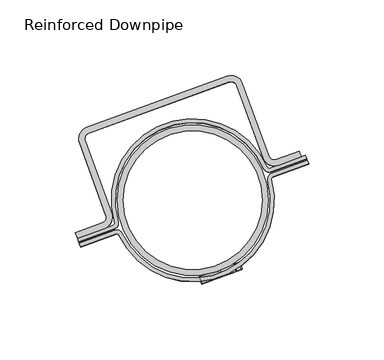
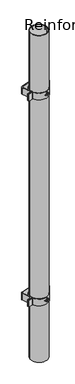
"""IFC4 building model written with IfcOpenShell, lengths in millimetres: proxy geometry, GROVIK_Special_Reinforced Downpipe : Reinforced Downpipe."""

from ifc_helpers import new_model, si_unit, point, frame, frame_2d, origin, origin_with_axes, origin_2d, place, context, project, spatial, polyline, circle_curve, ellipse_curve, trimmed, segment, composite_curve, outline, extrude, source, transform, mapped, element, save
from ifc_brep_helpers import plane_surface, cylinder_surface, revolved_surface, extruded_surface, advanced_brep


def reinforced_downpipe_ffb57d06(model_context):
    return source(origin(), model_context, "Body", "SolidModel", [
        advanced_brep(
        [(24.0556457, 78.3527616, 390.0), (29.1831627, 75.962314, 390.0), (46.6261898, 28.037991, 390.0), (56.8815635, 23.2572211, 390.0), (71.8928863, 28.7208958, 390.0), (70.5248064, 32.4796643, 390.0), (55.5107915, 27.0150098, 390.0), (50.3839465, 29.4057019, 390.0), (32.9409191, 77.3300255, 390.0), (22.6872291, 82.1114098, 390.0), (-70.2123755, 48.2987189, 390.0), (-74.9937432, 38.0450212, 390.0), (-57.5507159, -9.8793025, 390.0), (-59.9413998, -15.0061513, 390.0), (-77.6649001, -21.4569779, 390.0), (-76.2968202, -25.2157464, 390.0), (-58.57332, -18.7649198, 390.0), (-53.7919517, -8.5112235, 390.0), (-71.2349788, 39.4130995, 390.0), (-68.8442949, 44.5399484, 390.0), (24.0556457, 78.3527616, 350.0), (-68.8442949, 44.5399484, 350.0), (-71.2349788, 39.4130995, 350.0), (-53.7919517, -8.5112235, 350.0), (-58.57332, -18.7649198, 350.0), (-76.2968202, -25.2157464, 350.0), (-77.6649001, -21.4569779, 350.0), (-59.9413998, -15.0061513, 350.0), (-57.5507159, -9.8793025, 350.0), (-74.9937432, 38.0450212, 350.0), (-70.2123755, 48.2987189, 350.0), (22.6872291, 82.1114098, 350.0), (32.9409191, 77.3300255, 350.0), (50.3839465, 29.4057019, 350.0), (55.5107915, 27.0150098, 350.0), (70.5248064, 32.4796643, 350.0), (71.8928863, 28.7208958, 350.0), (56.8815635, 23.2572211, 350.0), (46.6261898, 28.037991, 350.0), (29.1831627, 75.962314, 350.0)],
        [
            (0, 1, ellipse_curve(frame((25.4237263, 74.5939911, 390.0), z_axis=(0.0, 0.0, -1.0000000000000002), x_axis=(0.9396926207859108, 0.34202014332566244, 0.0)), 4.0007087, 4.0)),
            (1, 2),
            (2, 3, ellipse_curve(frame((54.1454028, 30.7747608, 390.0), z_axis=(0.0, 0.0, 1.0000000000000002), x_axis=(0.9396926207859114, 0.34202014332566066, 0.0)), 8.0017793, 7.9999986)),
            (3, 4),
            (4, 5),
            (5, 6),
            (6, 7, ellipse_curve(frame((54.1427109, 30.7737802, 390.0), z_axis=(0.0, 0.0, -1.0000000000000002), x_axis=(0.34202014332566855, -0.9396926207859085, 0.0)), 4.0, 3.9999936)),
            (7, 8),
            (8, 9, ellipse_curve(frame((25.4233903, 74.5938688, 390.0), z_axis=(0.0, 0.0, 1.0), x_axis=(-0.3420201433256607, 0.9396926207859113, 0.0)), 8.0, 7.9999871)),
            (9, 10),
            (10, 11, ellipse_curve(frame((-67.4762144, 40.7811779, 390.0), z_axis=(0.0, 0.0, 1.0), x_axis=(-0.3420201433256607, 0.9396926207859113, 0.0)), 8.0, 7.9999871)),
            (11, 12),
            (12, 13, ellipse_curve(frame((-61.3094804, -11.2473809, 390.0), z_axis=(0.0, 0.0, -1.0), x_axis=(0.34202014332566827, -0.9396926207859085, 0.0)), 4.0, 3.9999936)),
            (13, 14),
            (14, 15),
            (15, 16),
            (16, 17, ellipse_curve(frame((-61.3094806, -11.2473802, 390.0), z_axis=(0.0, 0.0, 1.0), x_axis=(-0.3420201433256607, 0.9396926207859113, 0.0)), 7.9999986, 7.9999871)),
            (17, 18),
            (18, 19, ellipse_curve(frame((-67.4762144, 40.7811779, 390.0), z_axis=(0.0, 0.0, -1.0000000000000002), x_axis=(-0.3420201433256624, 0.9396926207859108, 0.0)), 4.0, 3.9999936)),
            (19, 0),
            (20, 21),
            (21, 22, ellipse_curve(frame((-67.4762144, 40.7811779, 350.0), z_axis=(0.0, 0.0, 1.0000000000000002), x_axis=(-0.3420201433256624, 0.9396926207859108, 0.0)), 4.0, 3.9999936)),
            (22, 23),
            (23, 24, ellipse_curve(frame((-61.3094806, -11.2473802, 350.0), z_axis=(0.0, 0.0, -1.0), x_axis=(-0.3420201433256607, 0.9396926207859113, 0.0)), 7.9999986, 7.9999871)),
            (24, 25),
            (25, 26),
            (26, 27),
            (27, 28, ellipse_curve(frame((-61.3094804, -11.2473809, 350.0), z_axis=(0.0, 0.0, 1.0), x_axis=(0.9396926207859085, 0.34202014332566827, 0.0)), 3.9999936, 4.0)),
            (28, 29),
            (29, 30, ellipse_curve(frame((-67.4762144, 40.7811779, 350.0), z_axis=(0.0, 0.0, -1.0), x_axis=(-0.3420201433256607, 0.9396926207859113, 0.0)), 8.0, 7.9999871)),
            (30, 31),
            (31, 32, ellipse_curve(frame((25.4233903, 74.5938688, 350.0), z_axis=(0.0, 0.0, -1.0), x_axis=(-0.3420201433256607, 0.9396926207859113, 0.0)), 8.0, 7.9999871)),
            (32, 33),
            (33, 34, ellipse_curve(frame((54.1427109, 30.7737802, 350.0), z_axis=(0.0, 0.0, 1.0000000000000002), x_axis=(0.34202014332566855, -0.9396926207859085, 0.0)), 4.0, 3.9999936)),
            (34, 35),
            (35, 36),
            (36, 37),
            (37, 38, ellipse_curve(frame((54.1454028, 30.7747608, 350.0), z_axis=(0.0, 0.0, -1.0000000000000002), x_axis=(0.34202014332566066, -0.9396926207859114, 0.0)), 7.9999986, 8.0017793)),
            (38, 39),
            (39, 20, ellipse_curve(frame((25.4237263, 74.5939911, 350.0), z_axis=(0.0, 0.0, 1.0000000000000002), x_axis=(0.9396926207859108, 0.34202014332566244, 0.0)), 4.0007087, 4.0)),
            (0, 20),
            (39, 1),
            (38, 2),
            (37, 3),
            (36, 4),
            (35, 5),
            (34, 6),
            (33, 7),
            (32, 8),
            (31, 9),
            (30, 10),
            (29, 11),
            (28, 12),
            (27, 13),
            (26, 14),
            (25, 15),
            (24, 16),
            (23, 17),
            (22, 18),
            (21, 19),
        ],
        [
            plane_surface(frame((29.1831627, 75.962314, 390.0), z_axis=(0.0, 0.0, 1.0000000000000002), x_axis=(0.34202014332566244, -0.9396926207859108, 0.0))),
            plane_surface(frame((29.1831627, 75.962314, 350.0), z_axis=(0.0, 0.0, -1.0000000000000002), x_axis=(-0.34202014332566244, 0.9396926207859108, 0.0))),
            extruded_surface(trimmed(ellipse_curve(frame((25.4237263, 74.5939911, 310.0), z_axis=(0.0, 0.0, -1.0000000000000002), x_axis=(0.9396926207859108, 0.34202014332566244, 0.0)), 4.0007087, 4.0), [point((24.0556457, 78.3527616, 310.0))], [point((29.1831627, 75.962314, 310.0))], True, "CARTESIAN"), (0.0, 0.0, 40.0), 40.0),
            plane_surface(frame((29.1831627, 75.962314, 390.0), z_axis=(-0.9396926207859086, -0.3420201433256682, 0.0), x_axis=(0.0, 0.0, -1.0))),
            extruded_surface(trimmed(ellipse_curve(frame((54.1454028, 30.7747608, 310.0), z_axis=(0.0, 0.0, 1.0000000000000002), x_axis=(0.34202014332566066, -0.9396926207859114, 0.0)), 7.9999986, 8.0017793), [point((46.6261898, 28.037991, 310.0))], [point((56.8815635, 23.2572211, 310.0))], True, "CARTESIAN"), (0.0, 0.0, 40.0), 40.0),
            plane_surface(frame((56.8815635, 23.2572211, 390.0), z_axis=(0.3420201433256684, -0.9396926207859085, 0.0), x_axis=(0.0, 0.0, -1.0))),
            plane_surface(frame((71.8928863, 28.7208958, 390.0), z_axis=(0.9396926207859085, 0.3420201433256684, 0.0), x_axis=(0.0, 0.0, -1.0))),
            plane_surface(frame((70.5248064, 32.4796643, 390.0), z_axis=(-0.3420201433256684, 0.9396926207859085, 0.0), x_axis=(0.0, 0.0, -1.0))),
            extruded_surface(trimmed(ellipse_curve(frame((54.1427109, 30.7737802, 310.0), z_axis=(0.0, 0.0, -1.0000000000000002), x_axis=(0.34202014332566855, -0.9396926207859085, 0.0)), 4.0, 3.9999936), [point((55.5107915, 27.0150098, 310.0))], [point((50.3839465, 29.4057019, 310.0))], True, "CARTESIAN"), (0.0, 0.0, 40.0), 40.0),
            plane_surface(frame((50.3839465, 29.4057019, 390.0), z_axis=(0.9396926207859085, 0.3420201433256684, 0.0), x_axis=(0.0, 0.0, -1.0))),
            extruded_surface(trimmed(ellipse_curve(frame((25.4233903, 74.5938688, 310.0), z_axis=(0.0, 0.0, 1.0), x_axis=(-0.3420201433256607, 0.9396926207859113, 0.0)), 8.0, 7.9999871), [point((32.9409191, 77.3300255, 310.0))], [point((22.6872291, 82.1114098, 310.0))], True, "CARTESIAN"), (0.0, 0.0, 40.0), 40.0),
            plane_surface(frame((22.6872291, 82.1114098, 390.0), z_axis=(-0.3420201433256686, 0.9396926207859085, 0.0), x_axis=(0.0, 0.0, -1.0))),
            extruded_surface(trimmed(ellipse_curve(frame((-67.4762144, 40.7811779, 310.0), z_axis=(0.0, 0.0, 1.0), x_axis=(-0.3420201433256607, 0.9396926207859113, 0.0)), 8.0, 7.9999871), [point((-70.2123755, 48.2987189, 310.0))], [point((-74.9937432, 38.0450212, 310.0))], True, "CARTESIAN"), (0.0, 0.0, 40.0), 40.0),
            plane_surface(frame((-74.9937432, 38.0450212, 390.0), z_axis=(-0.9396926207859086, -0.34202014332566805, 0.0), x_axis=(0.0, 0.0, -1.0))),
            extruded_surface(trimmed(ellipse_curve(frame((-61.3094804, -11.2473809, 310.0), z_axis=(0.0, 0.0, -1.0), x_axis=(0.9396926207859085, 0.34202014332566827, 0.0)), 3.9999936, 4.0), [point((-57.5507159, -9.8793025, 310.0))], [point((-59.9413998, -15.0061513, 310.0))], True, "CARTESIAN"), (0.0, 0.0, 40.0), 40.0),
            plane_surface(frame((-59.9413998, -15.0061513, 390.0), z_axis=(-0.3420201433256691, 0.9396926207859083, 0.0), x_axis=(0.0, 0.0, -1.0))),
            plane_surface(frame((-77.6649001, -21.4569779, 390.0), z_axis=(-0.9396926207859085, -0.3420201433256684, 0.0), x_axis=(0.0, 0.0, -1.0))),
            plane_surface(frame((-76.2968202, -25.2157464, 390.0), z_axis=(0.3420201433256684, -0.9396926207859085, 0.0), x_axis=(0.0, 0.0, -1.0))),
            extruded_surface(trimmed(ellipse_curve(frame((-61.3094806, -11.2473802, 310.0), z_axis=(0.0, 0.0, 1.0), x_axis=(-0.3420201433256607, 0.9396926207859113, 0.0)), 7.9999986, 7.9999871), [point((-58.57332, -18.7649198, 310.0))], [point((-53.7919517, -8.5112235, 310.0))], True, "CARTESIAN"), (0.0, 0.0, 40.0), 40.0),
            plane_surface(frame((-53.7919517, -8.5112235, 390.0), z_axis=(0.9396926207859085, 0.3420201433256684, 0.0), x_axis=(0.0, 0.0, -1.0))),
            extruded_surface(trimmed(ellipse_curve(frame((-67.4762144, 40.7811779, 310.0), z_axis=(0.0, 0.0, -1.0000000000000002), x_axis=(-0.3420201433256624, 0.9396926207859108, 0.0)), 4.0, 3.9999936), [point((-71.2349788, 39.4130995, 310.0))], [point((-68.8442949, 44.5399484, 310.0))], True, "CARTESIAN"), (0.0, 0.0, 40.0), 40.0),
            plane_surface(frame((-68.8442949, 44.5399484, 390.0), z_axis=(0.34202014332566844, -0.9396926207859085, 0.0), x_axis=(0.0, 0.0, -1.0))),
        ],
        [
            (0, [[1, 2, 3, 4, 5, 6, 7, 8, 9, 10, 11, 12, 13, 14, 15, 16, 17, 18, 19, 20]]),
            (1, [[21, 22, 23, 24, 25, 26, 27, 28, 29, 30, 31, 32, 33, 34, 35, 36, 37, 38, 39, 40]]),
            (2, [[-1, 41, -40, 42]]),
            (3, [[-2, -42, -39, 43]]),
            (4, [[-3, -43, -38, 44]]),
            (5, [[-4, -44, -37, 45]]),
            (6, [[-5, -45, -36, 46]]),
            (7, [[-6, -46, -35, 47]]),
            (8, [[-7, -47, -34, 48]]),
            (9, [[-8, -48, -33, 49]]),
            (10, [[-9, -49, -32, 50]]),
            (11, [[-10, -50, -31, 51]]),
            (12, [[-11, -51, -30, 52]]),
            (13, [[-12, -52, -29, 53]]),
            (14, [[-13, -53, -28, 54]]),
            (15, [[-14, -54, -27, 55]]),
            (16, [[-15, -55, -26, 56]]),
            (17, [[-16, -56, -25, 57]]),
            (18, [[-17, -57, -24, 58]]),
            (19, [[-18, -58, -23, 59]]),
            (20, [[-19, -59, -22, 60]]),
            (21, [[-20, -60, -21, -41]]),
        ],
    ),
        extrude(outline(composite_curve([segment(trimmed(circle_curve(origin_2d(), 53.9779115), [point((52.1634617, 13.877615))], [point((-48.8798889, -22.899157))], False, "CARTESIAN"), True, "CONTINUOUS"), segment(trimmed(circle_curve(frame_2d((-50.1476639, -23.4930818)), 1.4), [point((-48.8798889, -22.899157))], [point((-50.6264921, -22.1775121))], True, "CARTESIAN"), True, "CONTINUOUS"), segment(polyline([(-50.6264921, -22.1775121), (-74.2711495, -30.7834636), (-75.1040432, -28.4951069), (-51.6461822, -19.9571437)]), True, "CONTINUOUS"), segment(trimmed(circle_curve(frame_2d((-50.2438996, -23.8098835)), 4.1), [point((-51.6461822, -19.9571437))], [point((-46.5388638, -22.0541187))], False, "CARTESIAN"), True, "CONTINUOUS"), segment(trimmed(circle_curve(origin_2d(), 51.5), [point((-46.5388638, -22.0541187))], [point((49.8269523, 13.02017))], True, "CARTESIAN"), True, "CONTINUOUS"), segment(trimmed(circle_curve(frame_2d((53.7937582, 14.0567272)), 4.1), [point((49.8269523, 13.02017))], [point((52.3914756, 17.9094669))], False, "CARTESIAN"), True, "CONTINUOUS"), segment(polyline([(52.3914756, 17.9094669), (75.8493366, 26.4474301), (76.6822303, 24.1590734), (53.037573, 15.5531219)]), True, "CONTINUOUS"), segment(trimmed(circle_curve(frame_2d((53.5164012, 14.2375522)), 1.4), [point((53.037573, 15.5531219))], [point((52.1634617, 13.877615))], True, "CARTESIAN"), True, "CONTINUOUS")], self_intersect=False)), frame((0.0, 0.0, 350.0), z_axis=(0.0, 0.0, 1.0), x_axis=(1.0, 0.0, 0.0)), (0.0, 0.0, 1.0), 40.0),
        extrude(outline(composite_curve([segment(polyline([(-75.487286, -27.4421558), (-76.2975382, -25.2160062), (-52.5606511, -16.5764858)]), True, "CONTINUOUS"), segment(trimmed(circle_curve(frame_2d((-52.9710752, -15.4488547)), 1.2), [point((-52.5606511, -16.5764858))], [point((-51.8190691, -15.1128756))], True, "CARTESIAN"), True, "CONTINUOUS"), segment(trimmed(circle_curve(origin_2d(), 53.9779115), [point((-51.8190691, -15.1128756))], [point((49.4100791, 21.7315212))], False, "CARTESIAN"), True, "CONTINUOUS"), segment(trimmed(circle_curve(frame_2d((50.5085302, 22.2146415)), 1.2), [point((49.4100791, 21.7315212))], [point((50.9189544, 21.0870104))], True, "CARTESIAN"), True, "CONTINUOUS"), segment(polyline([(50.9189544, 21.0870104), (74.6558415, 29.7265308), (75.4660937, 27.5003812), (51.8295603, 18.8973866)]), True, "CONTINUOUS"), segment(trimmed(circle_curve(frame_2d((50.5298838, 22.4682185)), 3.8), [point((51.8295603, 18.8973866))], [point((47.0576676, 20.9242903))], False, "CARTESIAN"), True, "CONTINUOUS"), segment(trimmed(circle_curve(origin_2d(), 51.5), [point((47.0576676, 20.9242903))], [point((-49.4981393, -14.2191493))], True, "CARTESIAN"), True, "CONTINUOUS"), segment(trimmed(circle_curve(frame_2d((-53.1504292, -15.2683293)), 3.8), [point((-49.4981393, -14.2191493))], [point((-51.8507526, -18.8391612))], False, "CARTESIAN"), True, "CONTINUOUS"), segment(polyline([(-51.8507526, -18.8391612), (-75.487286, -27.4421558)]), True, "CONTINUOUS")], self_intersect=False)), frame((0.0, 0.0, 350.0), z_axis=(0.0, 0.0, 1.0), x_axis=(1.0, 0.0, 0.0)), (0.0, 0.0, 1.0), 40.0),
        advanced_brep(
        [(32.5639185, -45.5897966, 370.3702957), (32.2331264, -45.7101951, 371.2244821), (18.5682046, -50.6838199, 371.250567), (18.5152274, -50.703102, 369.0208304), (25.7326927, -48.0761595, 368.935265), (26.0590557, -47.957373, 368.0805643), (19.9582212, -50.1778952, 361.5391979), (18.8399651, -50.5849071, 361.3901524), (10.2970294, -53.6942815, 370.5140196), (10.2985417, -53.693731, 371.4111867), (18.8726939, -50.5729949, 380.5029242), (19.9562418, -50.1786157, 380.3129279), (25.1329715, -48.2944401, 374.8573801), (26.0625267, -47.9561097, 374.445555), (28.5856346, -47.0377736, 374.4407386), (28.9191706, -46.9163764, 375.2937991), (19.9973789, -50.163643, 384.894078), (18.4572234, -50.7242138, 384.5994837), (6.0312105, -55.2469126, 371.4233649), (6.0296883, -55.2474666, 370.5203393), (18.8326101, -50.5875842, 356.8468012), (19.9165889, -50.1930481, 357.0324447), (30.8538178, -40.8913335, 370.3702957), (18.2407655, -45.4821091, 356.9958467), (17.1225094, -45.8891211, 356.8468012), (4.3195876, -50.5490035, 370.5203393), (4.3211097, -50.5484495, 371.4233649), (16.7471226, -46.0257507, 384.5994837), (18.2530796, -45.4776271, 384.8573955), (27.2430486, -42.205546, 375.3293029), (26.8755339, -42.3393105, 374.4407386), (24.3524259, -43.2576466, 374.445555), (23.4228708, -43.595977, 374.8573801), (18.2803396, -45.4677053, 380.3496105), (17.1625932, -45.8745317, 380.5029242), (8.5884409, -48.9952679, 371.4111867), (8.5869287, -48.9958184, 370.5140196), (17.1298644, -45.886444, 361.3901524), (18.2138432, -45.491908, 361.5757959), (24.3828876, -43.2465595, 368.0442949), (24.0221865, -43.377844, 368.9345933), (16.8051267, -46.0046389, 369.0208304), (16.8581039, -45.9853568, 371.250567), (30.5230257, -41.011732, 371.2244821)],
        [
            (0, 1, circle_curve(frame((32.2322836, -45.7105018, 370.7244829), z_axis=(0.3420201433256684, -0.9396926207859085, 0.0), x_axis=(-0.9396926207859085, -0.3420201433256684, 0.0)), 0.5)),
            (1, 2),
            (2, 3, circle_curve(frame((18.5635641, -50.6855089, 370.1351108), z_axis=(0.3420201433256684, -0.9396926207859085, 0.0), x_axis=(-0.9396926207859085, -0.3420201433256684, 0.0)), 1.1154671)),
            (3, 4),
            (4, 5, circle_curve(frame((25.7272983, -48.0781229, 368.4346214), z_axis=(-0.3420201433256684, 0.9396926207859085, 0.0), x_axis=(-0.9396926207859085, -0.3420201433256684, 0.0)), 0.5)),
            (5, 6),
            (6, 7, circle_curve(frame((19.2607755, -50.4317447, 362.2842776), z_axis=(-0.3420201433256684, 0.9396926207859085, 0.0), x_axis=(-0.9396926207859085, -0.3420201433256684, 0.0)), 1.0)),
            (7, 8),
            (8, 9, circle_curve(frame((11.1376256, -53.3883295, 370.9609999), z_axis=(-0.3420201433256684, 0.9396926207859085, 0.0), x_axis=(-0.9396926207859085, -0.3420201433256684, 0.0)), 1.0)),
            (9, 10),
            (10, 11, circle_curve(frame((19.2904873, -50.4209305, 379.6071982), z_axis=(-0.3420201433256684, 0.9396926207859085, 0.0), x_axis=(-0.9396926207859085, -0.3420201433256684, 0.0)), 1.0)),
            (11, 12),
            (12, 13, circle_curve(frame((26.0648865, -47.9552508, 375.8455527), z_axis=(0.3420201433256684, -0.9396926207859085, 0.0), x_axis=(-0.9396926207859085, -0.3420201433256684, 0.0)), 1.4)),
            (13, 14),
            (14, 15, circle_curve(frame((28.5864774, -47.0374668, 374.9407378), z_axis=(0.3420201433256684, -0.9396926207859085, 0.0), x_axis=(-0.9396926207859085, -0.3420201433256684, 0.0)), 0.5)),
            (15, 16),
            (16, 17, circle_curve(frame((19.2974258, -50.4184051, 384.1516658), z_axis=(0.3420201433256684, -0.9396926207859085, 0.0), x_axis=(-0.9396926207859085, -0.3420201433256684, 0.0)), 1.0)),
            (17, 18),
            (18, 19, circle_curve(frame((6.8689022, -54.9420177, 370.9702516), z_axis=(0.3420201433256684, -0.9396926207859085, 0.0), x_axis=(-0.9396926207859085, -0.3420201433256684, 0.0)), 1.0)),
            (19, 20),
            (20, 21, circle_curve(frame((19.2534205, -50.4344217, 357.7409265), z_axis=(0.3420201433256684, -0.9396926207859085, 0.0), x_axis=(-0.9396926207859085, -0.3420201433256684, 0.0)), 1.0)),
            (21, 0),
            (22, 23),
            (23, 24, circle_curve(frame((17.5433197, -45.7359586, 357.7409265), z_axis=(-0.3420201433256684, 0.9396926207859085, 0.0), x_axis=(-0.9396926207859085, -0.3420201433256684, 0.0)), 1.0)),
            (24, 25),
            (25, 26, circle_curve(frame((5.1588015, -50.2435546, 370.9702516), z_axis=(-0.3420201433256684, 0.9396926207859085, 0.0), x_axis=(-0.9396926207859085, -0.3420201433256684, 0.0)), 1.0)),
            (26, 27),
            (27, 28, circle_curve(frame((17.5873251, -45.719942, 384.1516658), z_axis=(-0.3420201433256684, 0.9396926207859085, 0.0), x_axis=(-0.9396926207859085, -0.3420201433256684, 0.0)), 1.0)),
            (28, 29),
            (29, 30, circle_curve(frame((26.8763767, -42.3390037, 374.9407378), z_axis=(-0.3420201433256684, 0.9396926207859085, 0.0), x_axis=(-0.9396926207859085, -0.3420201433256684, 0.0)), 0.5)),
            (30, 31),
            (31, 32, circle_curve(frame((24.3547858, -43.2567877, 375.8455527), z_axis=(-0.3420201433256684, 0.9396926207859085, 0.0), x_axis=(-0.9396926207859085, -0.3420201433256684, 0.0)), 1.4)),
            (32, 33),
            (33, 34, circle_curve(frame((17.5803866, -45.7224674, 379.6071982), z_axis=(0.3420201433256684, -0.9396926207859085, 0.0), x_axis=(-0.9396926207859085, -0.3420201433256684, 0.0)), 1.0)),
            (34, 35),
            (35, 36, circle_curve(frame((9.4275248, -48.6898664, 370.9609999), z_axis=(0.3420201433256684, -0.9396926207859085, 0.0), x_axis=(-0.9396926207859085, -0.3420201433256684, 0.0)), 1.0)),
            (36, 37),
            (37, 38, circle_curve(frame((17.5506748, -45.7332816, 362.2842776), z_axis=(0.3420201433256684, -0.9396926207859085, 0.0), x_axis=(-0.9396926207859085, -0.3420201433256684, 0.0)), 1.0)),
            (38, 39),
            (39, 40, circle_curve(frame((24.0171976, -43.3796598, 368.4346214), z_axis=(0.3420201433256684, -0.9396926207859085, 0.0), x_axis=(-0.9396926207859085, -0.3420201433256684, 0.0)), 0.5)),
            (40, 41),
            (41, 42, circle_curve(frame((16.8534634, -45.9870458, 370.1351108), z_axis=(-0.3420201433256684, 0.9396926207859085, 0.0), x_axis=(-0.9396926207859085, -0.3420201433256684, 0.0)), 1.1154671)),
            (42, 43),
            (43, 22, circle_curve(frame((30.5221829, -41.0120387, 370.7244829), z_axis=(-0.3420201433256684, 0.9396926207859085, 0.0), x_axis=(-0.9396926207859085, -0.3420201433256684, 0.0)), 0.5)),
            (0, 22),
            (43, 1),
            (42, 2),
            (41, 3),
            (40, 4),
            (39, 5),
            (38, 6),
            (37, 7),
            (36, 8),
            (35, 9),
            (34, 10),
            (33, 11),
            (32, 12),
            (31, 13),
            (30, 14),
            (29, 15),
            (28, 16),
            (27, 17),
            (26, 18),
            (25, 19),
            (24, 20),
            (23, 21),
        ],
        [
            plane_surface(frame((31.7624373, -45.8815119, 370.7244829), z_axis=(0.3420201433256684, -0.9396926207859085, 0.0), x_axis=(0.0, 0.0, -1.0))),
            plane_surface(frame((30.0523366, -41.1830488, 370.7244829), z_axis=(-0.3420201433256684, 0.9396926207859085, 0.0), x_axis=(0.0, 0.0, 1.0))),
            cylinder_surface(frame((30.5221829, -41.0120387, 370.7244829), z_axis=(0.3420201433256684, -0.9396926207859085, 0.0), x_axis=(-0.9396926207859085, -0.3420201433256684, 0.0)), 0.5),
            plane_surface(frame((32.2331264, -45.7101951, 371.2244821), z_axis=(0.001685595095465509, 0.0006135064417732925, 0.9999983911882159), x_axis=(-0.3420201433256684, 0.9396926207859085, 0.0))),
            cylinder_surface(frame((16.8534634, -45.9870458, 370.1351108), z_axis=(0.3420201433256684, -0.9396926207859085, 0.0), x_axis=(-0.9396926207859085, -0.3420201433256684, 0.0)), 1.1154671),
            plane_surface(frame((18.5152274, -50.703102, 369.0208304), z_axis=(-0.010467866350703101, -0.0038099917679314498, -0.9999379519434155), x_axis=(-0.3420201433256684, 0.9396926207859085, 0.0))),
            revolved_surface(polyline([(23.547351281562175, -43.55066984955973, 368.4346214), (25.257452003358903, -48.2491329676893, 368.4346214)]), (24.0171976, -43.3796598, 368.4346214), (-0.3420201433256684, 0.9396926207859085, 0.0)),
            plane_surface(frame((26.0929883, -47.9450226, 368.0442949), z_axis=(-0.6632697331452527, -0.24141044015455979, 0.7083743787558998), x_axis=(-0.3420201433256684, 0.9396926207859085, 0.0))),
            revolved_surface(polyline([(16.610982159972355, -46.07530169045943, 362.2842776), (18.321082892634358, -50.773764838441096, 362.2842776)]), (17.5506748, -45.7332816, 362.2842776), (-0.3420201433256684, 0.9396926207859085, 0.0)),
            plane_surface(frame((18.8399651, -50.5849071, 361.3901524), z_axis=(0.6656535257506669, 0.2422780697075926, 0.7058376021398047), x_axis=(-0.3420201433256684, 0.9396926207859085, 0.0))),
            revolved_surface(polyline([(8.487832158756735, -49.03188648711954, 370.9609999), (10.197932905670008, -53.73034967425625, 370.9609999)]), (9.4275248, -48.6898664, 370.9609999), (-0.3420201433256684, 0.9396926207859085, 0.0)),
            plane_surface(frame((10.2985417, -53.693731, 371.4111867), z_axis=(0.6632697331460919, 0.24141044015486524, -0.7083743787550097), x_axis=(-0.3420201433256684, 0.9396926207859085, 0.0))),
            revolved_surface(polyline([(16.640693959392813, -46.06448748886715, 379.6071982), (18.350794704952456, -50.762950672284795, 379.6071982)]), (17.5803866, -45.7224674, 379.6071982), (-0.3420201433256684, 0.9396926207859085, 0.0)),
            plane_surface(frame((19.9904403, -50.1661684, 380.3496105), z_axis=(-0.6656535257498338, -0.2422780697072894, -0.7058376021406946), x_axis=(-0.3420201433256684, 0.9396926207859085, 0.0))),
            cylinder_surface(frame((24.3547858, -43.2567877, 375.8455527), z_axis=(0.3420201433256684, -0.9396926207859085, 0.0), x_axis=(-0.9396926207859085, -0.3420201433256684, 0.0)), 1.4),
            plane_surface(frame((26.0625267, -47.9561097, 374.445555), z_axis=(-0.0016855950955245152, -0.000613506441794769, -0.9999983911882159), x_axis=(-0.3420201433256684, 0.9396926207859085, 0.0))),
            cylinder_surface(frame((26.8763767, -42.3390037, 374.9407378), z_axis=(0.3420201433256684, -0.9396926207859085, 0.0), x_axis=(-0.9396926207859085, -0.3420201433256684, 0.0)), 0.5),
            plane_surface(frame((28.9531493, -46.9040091, 375.3293029), z_axis=(0.6656535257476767, 0.24227806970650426, 0.7058376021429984), x_axis=(-0.3420201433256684, 0.9396926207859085, 0.0))),
            cylinder_surface(frame((17.5873251, -45.719942, 384.1516658), z_axis=(0.3420201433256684, -0.9396926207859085, 0.0), x_axis=(-0.9396926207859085, -0.3420201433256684, 0.0)), 1.0),
            plane_surface(frame((18.4572234, -50.7242138, 384.5994837), z_axis=(-0.6632697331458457, -0.24141044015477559, 0.7083743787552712), x_axis=(-0.3420201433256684, 0.9396926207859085, 0.0))),
            cylinder_surface(frame((5.1588015, -50.2435546, 370.9702516), z_axis=(0.3420201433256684, -0.9396926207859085, 0.0), x_axis=(-0.9396926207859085, -0.3420201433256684, 0.0)), 1.0),
            plane_surface(frame((6.0296883, -55.2474666, 370.5203393), z_axis=(-0.6656535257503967, -0.24227806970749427, -0.7058376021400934), x_axis=(-0.3420201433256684, 0.9396926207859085, 0.0))),
            cylinder_surface(frame((17.5433197, -45.7359586, 357.7409265), z_axis=(0.3420201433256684, -0.9396926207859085, 0.0), x_axis=(-0.9396926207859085, -0.3420201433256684, 0.0)), 1.0),
            plane_surface(frame((19.9508662, -50.1805722, 356.9958467), z_axis=(0.6632697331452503, 0.24141044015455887, -0.7083743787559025), x_axis=(-0.3420201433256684, 0.9396926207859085, 0.0))),
        ],
        [
            (0, [[1, 2, 3, 4, 5, 6, 7, 8, 9, 10, 11, 12, 13, 14, 15, 16, 17, 18, 19, 20, 21, 22]]),
            (1, [[23, 24, 25, 26, 27, 28, 29, 30, 31, 32, 33, 34, 35, 36, 37, 38, 39, 40, 41, 42, 43, 44]]),
            (2, [[-1, 45, -44, 46]]),
            (3, [[-2, -46, -43, 47]]),
            (4, [[-3, -47, -42, 48]]),
            (5, [[-4, -48, -41, 49]]),
            (6, [[-5, -49, -40, 50]]),
            (7, [[-6, -50, -39, 51]]),
            (8, [[-7, -51, -38, 52]]),
            (9, [[-8, -52, -37, 53]]),
            (10, [[-9, -53, -36, 54]]),
            (11, [[-10, -54, -35, 55]]),
            (12, [[-11, -55, -34, 56]]),
            (13, [[-12, -56, -33, 57]]),
            (14, [[-13, -57, -32, 58]]),
            (15, [[-14, -58, -31, 59]]),
            (16, [[-15, -59, -30, 60]]),
            (17, [[-16, -60, -29, 61]]),
            (18, [[-17, -61, -28, 62]]),
            (19, [[-18, -62, -27, 63]]),
            (20, [[-19, -63, -26, 64]]),
            (21, [[-20, -64, -25, 65]]),
            (22, [[-21, -65, -24, 66]]),
            (23, [[-22, -66, -23, -45]]),
        ],
    ),
        advanced_brep(
        [(24.0556457, 78.3527616, 1650.0), (29.1831627, 75.962314, 1650.0), (46.6261898, 28.037991, 1650.0), (56.8815635, 23.2572211, 1650.0), (71.8928863, 28.7208958, 1650.0), (70.5248064, 32.4796643, 1650.0), (55.5107915, 27.0150098, 1650.0), (50.3839465, 29.4057019, 1650.0), (32.9409191, 77.3300255, 1650.0), (22.6872291, 82.1114098, 1650.0), (-70.2123755, 48.2987189, 1650.0), (-74.9937432, 38.0450212, 1650.0), (-57.5507159, -9.8793025, 1650.0), (-59.9413998, -15.0061513, 1650.0), (-77.6649001, -21.4569779, 1650.0), (-76.2968202, -25.2157464, 1650.0), (-58.57332, -18.7649198, 1650.0), (-53.7919517, -8.5112235, 1650.0), (-71.2349788, 39.4130995, 1650.0), (-68.8442949, 44.5399484, 1650.0), (24.0556457, 78.3527616, 1610.0), (-68.8442949, 44.5399484, 1610.0), (-71.2349788, 39.4130995, 1610.0), (-53.7919517, -8.5112235, 1610.0), (-58.57332, -18.7649198, 1610.0), (-76.2968202, -25.2157464, 1610.0), (-77.6649001, -21.4569779, 1610.0), (-59.9413998, -15.0061513, 1610.0), (-57.5507159, -9.8793025, 1610.0), (-74.9937432, 38.0450212, 1610.0), (-70.2123755, 48.2987189, 1610.0), (22.6872291, 82.1114098, 1610.0), (32.9409191, 77.3300255, 1610.0), (50.3839465, 29.4057019, 1610.0), (55.5107915, 27.0150098, 1610.0), (70.5248064, 32.4796643, 1610.0), (71.8928863, 28.7208958, 1610.0), (56.8815635, 23.2572211, 1610.0), (46.6261898, 28.037991, 1610.0), (29.1831627, 75.962314, 1610.0)],
        [
            (0, 1, ellipse_curve(frame((25.4237263, 74.5939911, 1650.0), z_axis=(0.0, 0.0, -1.0000000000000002), x_axis=(0.9396926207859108, 0.3420201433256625, 0.0)), 4.0007087, 4.0)),
            (1, 2),
            (2, 3, ellipse_curve(frame((54.1454028, 30.7747608, 1650.0), z_axis=(0.0, 0.0, 1.0), x_axis=(0.9396926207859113, 0.34202014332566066, 0.0)), 8.0017793, 7.9999986)),
            (3, 4),
            (4, 5),
            (5, 6),
            (6, 7, ellipse_curve(frame((54.1427109, 30.7737802, 1650.0), z_axis=(0.0, 0.0, -1.0000000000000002), x_axis=(0.3420201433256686, -0.9396926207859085, 0.0)), 4.0, 3.9999936)),
            (7, 8),
            (8, 9, ellipse_curve(frame((25.4233903, 74.5938688, 1650.0), z_axis=(0.0, 0.0, 1.0), x_axis=(-0.3420201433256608, 0.9396926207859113, 0.0)), 8.0, 7.9999871)),
            (9, 10),
            (10, 11, ellipse_curve(frame((-67.4762144, 40.7811779, 1650.0), z_axis=(0.0, 0.0, 1.0), x_axis=(-0.3420201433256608, 0.9396926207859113, 0.0)), 8.0, 7.9999871)),
            (11, 12),
            (12, 13, ellipse_curve(frame((-61.3094804, -11.2473809, 1650.0), z_axis=(0.0, 0.0, -1.0), x_axis=(0.3420201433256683, -0.9396926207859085, 0.0)), 4.0, 3.9999936)),
            (13, 14),
            (14, 15),
            (15, 16),
            (16, 17, ellipse_curve(frame((-61.3094806, -11.2473802, 1650.0), z_axis=(0.0, 0.0, 1.0), x_axis=(-0.3420201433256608, 0.9396926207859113, 0.0)), 7.9999986, 7.9999871)),
            (17, 18),
            (18, 19, ellipse_curve(frame((-67.4762144, 40.7811779, 1650.0), z_axis=(0.0, 0.0, -1.0000000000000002), x_axis=(-0.34202014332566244, 0.9396926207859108, 0.0)), 4.0, 3.9999936)),
            (19, 0),
            (20, 21),
            (21, 22, ellipse_curve(frame((-67.4762144, 40.7811779, 1610.0), z_axis=(0.0, 0.0, 1.0000000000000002), x_axis=(-0.34202014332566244, 0.9396926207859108, 0.0)), 4.0, 3.9999936)),
            (22, 23),
            (23, 24, ellipse_curve(frame((-61.3094806, -11.2473802, 1610.0), z_axis=(0.0, 0.0, -1.0), x_axis=(-0.3420201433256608, 0.9396926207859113, 0.0)), 7.9999986, 7.9999871)),
            (24, 25),
            (25, 26),
            (26, 27),
            (27, 28, ellipse_curve(frame((-61.3094804, -11.2473809, 1610.0), z_axis=(0.0, 0.0, 1.0), x_axis=(0.9396926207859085, 0.3420201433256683, 0.0)), 3.9999936, 4.0)),
            (28, 29),
            (29, 30, ellipse_curve(frame((-67.4762144, 40.7811779, 1610.0), z_axis=(0.0, 0.0, -1.0), x_axis=(-0.3420201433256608, 0.9396926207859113, 0.0)), 8.0, 7.9999871)),
            (30, 31),
            (31, 32, ellipse_curve(frame((25.4233903, 74.5938688, 1610.0), z_axis=(0.0, 0.0, -1.0), x_axis=(-0.3420201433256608, 0.9396926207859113, 0.0)), 8.0, 7.9999871)),
            (32, 33),
            (33, 34, ellipse_curve(frame((54.1427109, 30.7737802, 1610.0), z_axis=(0.0, 0.0, 1.0000000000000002), x_axis=(0.3420201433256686, -0.9396926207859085, 0.0)), 4.0, 3.9999936)),
            (34, 35),
            (35, 36),
            (36, 37),
            (37, 38, ellipse_curve(frame((54.1454028, 30.7747608, 1610.0), z_axis=(0.0, 0.0, -1.0), x_axis=(0.34202014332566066, -0.9396926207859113, 0.0)), 7.9999986, 8.0017793)),
            (38, 39),
            (39, 20, ellipse_curve(frame((25.4237263, 74.5939911, 1610.0), z_axis=(0.0, 0.0, 1.0000000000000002), x_axis=(0.9396926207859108, 0.3420201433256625, 0.0)), 4.0007087, 4.0)),
            (0, 20),
            (39, 1),
            (38, 2),
            (37, 3),
            (36, 4),
            (35, 5),
            (34, 6),
            (33, 7),
            (32, 8),
            (31, 9),
            (30, 10),
            (29, 11),
            (28, 12),
            (27, 13),
            (26, 14),
            (25, 15),
            (24, 16),
            (23, 17),
            (22, 18),
            (21, 19),
        ],
        [
            plane_surface(frame((29.1831627, 75.962314, 1650.0), z_axis=(0.0, 0.0, 1.0000000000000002), x_axis=(0.3420201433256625, -0.9396926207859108, 0.0))),
            plane_surface(frame((29.1831627, 75.962314, 1610.0), z_axis=(0.0, 0.0, -1.0000000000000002), x_axis=(-0.3420201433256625, 0.9396926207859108, 0.0))),
            extruded_surface(trimmed(ellipse_curve(frame((25.4237263, 74.5939911, 1570.0), z_axis=(0.0, 0.0, -1.0000000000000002), x_axis=(0.9396926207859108, 0.3420201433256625, 0.0)), 4.0007087, 4.0), [point((24.0556457, 78.3527616, 1570.0))], [point((29.1831627, 75.962314, 1570.0))], True, "CARTESIAN"), (0.0, 0.0, 40.0), 40.0),
            plane_surface(frame((29.1831627, 75.962314, 1650.0), z_axis=(-0.9396926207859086, -0.34202014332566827, 0.0), x_axis=(0.0, 0.0, -1.0))),
            extruded_surface(trimmed(ellipse_curve(frame((54.1454028, 30.7747608, 1570.0), z_axis=(0.0, 0.0, 1.0), x_axis=(0.34202014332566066, -0.9396926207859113, 0.0)), 7.9999986, 8.0017793), [point((46.6261898, 28.037991, 1570.0))], [point((56.8815635, 23.2572211, 1570.0))], True, "CARTESIAN"), (0.0, 0.0, 40.0), 40.0),
            plane_surface(frame((56.8815635, 23.2572211, 1650.0), z_axis=(0.34202014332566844, -0.9396926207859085, 0.0), x_axis=(0.0, 0.0, -1.0))),
            plane_surface(frame((71.8928863, 28.7208958, 1650.0), z_axis=(0.9396926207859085, 0.34202014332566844, 0.0), x_axis=(0.0, 0.0, -1.0))),
            plane_surface(frame((70.5248064, 32.4796643, 1650.0), z_axis=(-0.34202014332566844, 0.9396926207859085, 0.0), x_axis=(0.0, 0.0, -1.0))),
            extruded_surface(trimmed(ellipse_curve(frame((54.1427109, 30.7737802, 1570.0), z_axis=(0.0, 0.0, -1.0000000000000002), x_axis=(0.3420201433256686, -0.9396926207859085, 0.0)), 4.0, 3.9999936), [point((55.5107915, 27.0150098, 1570.0))], [point((50.3839465, 29.4057019, 1570.0))], True, "CARTESIAN"), (0.0, 0.0, 40.0), 40.0),
            plane_surface(frame((50.3839465, 29.4057019, 1650.0), z_axis=(0.9396926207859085, 0.34202014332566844, 0.0), x_axis=(0.0, 0.0, -1.0))),
            extruded_surface(trimmed(ellipse_curve(frame((25.4233903, 74.5938688, 1570.0), z_axis=(0.0, 0.0, 1.0), x_axis=(-0.3420201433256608, 0.9396926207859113, 0.0)), 8.0, 7.9999871), [point((32.9409191, 77.3300255, 1570.0))], [point((22.6872291, 82.1114098, 1570.0))], True, "CARTESIAN"), (0.0, 0.0, 40.0), 40.0),
            plane_surface(frame((22.6872291, 82.1114098, 1650.0), z_axis=(-0.3420201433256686, 0.9396926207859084, 0.0), x_axis=(0.0, 0.0, -1.0))),
            extruded_surface(trimmed(ellipse_curve(frame((-67.4762144, 40.7811779, 1570.0), z_axis=(0.0, 0.0, 1.0), x_axis=(-0.3420201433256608, 0.9396926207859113, 0.0)), 8.0, 7.9999871), [point((-70.2123755, 48.2987189, 1570.0))], [point((-74.9937432, 38.0450212, 1570.0))], True, "CARTESIAN"), (0.0, 0.0, 40.0), 40.0),
            plane_surface(frame((-74.9937432, 38.0450212, 1650.0), z_axis=(-0.9396926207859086, -0.3420201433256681, 0.0), x_axis=(0.0, 0.0, -1.0))),
            extruded_surface(trimmed(ellipse_curve(frame((-61.3094804, -11.2473809, 1570.0), z_axis=(0.0, 0.0, -1.0), x_axis=(0.9396926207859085, 0.3420201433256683, 0.0)), 3.9999936, 4.0), [point((-57.5507159, -9.8793025, 1570.0))], [point((-59.9413998, -15.0061513, 1570.0))], True, "CARTESIAN"), (0.0, 0.0, 40.0), 40.0),
            plane_surface(frame((-59.9413998, -15.0061513, 1650.0), z_axis=(-0.34202014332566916, 0.9396926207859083, 0.0), x_axis=(0.0, 0.0, -1.0))),
            plane_surface(frame((-77.6649001, -21.4569779, 1650.0), z_axis=(-0.9396926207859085, -0.34202014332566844, 0.0), x_axis=(0.0, 0.0, -1.0))),
            plane_surface(frame((-76.2968202, -25.2157464, 1650.0), z_axis=(0.34202014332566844, -0.9396926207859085, 0.0), x_axis=(0.0, 0.0, -1.0))),
            extruded_surface(trimmed(ellipse_curve(frame((-61.3094806, -11.2473802, 1570.0), z_axis=(0.0, 0.0, 1.0), x_axis=(-0.3420201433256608, 0.9396926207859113, 0.0)), 7.9999986, 7.9999871), [point((-58.57332, -18.7649198, 1570.0))], [point((-53.7919517, -8.5112235, 1570.0))], True, "CARTESIAN"), (0.0, 0.0, 40.0), 40.0),
            plane_surface(frame((-53.7919517, -8.5112235, 1650.0), z_axis=(0.9396926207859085, 0.34202014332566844, 0.0), x_axis=(0.0, 0.0, -1.0))),
            extruded_surface(trimmed(ellipse_curve(frame((-67.4762144, 40.7811779, 1570.0), z_axis=(0.0, 0.0, -1.0000000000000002), x_axis=(-0.34202014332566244, 0.9396926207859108, 0.0)), 4.0, 3.9999936), [point((-71.2349788, 39.4130995, 1570.0))], [point((-68.8442949, 44.5399484, 1570.0))], True, "CARTESIAN"), (0.0, 0.0, 40.0), 40.0),
            plane_surface(frame((-68.8442949, 44.5399484, 1650.0), z_axis=(0.3420201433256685, -0.9396926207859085, 0.0), x_axis=(0.0, 0.0, -1.0))),
        ],
        [
            (0, [[1, 2, 3, 4, 5, 6, 7, 8, 9, 10, 11, 12, 13, 14, 15, 16, 17, 18, 19, 20]]),
            (1, [[21, 22, 23, 24, 25, 26, 27, 28, 29, 30, 31, 32, 33, 34, 35, 36, 37, 38, 39, 40]]),
            (2, [[-1, 41, -40, 42]]),
            (3, [[-2, -42, -39, 43]]),
            (4, [[-3, -43, -38, 44]]),
            (5, [[-4, -44, -37, 45]]),
            (6, [[-5, -45, -36, 46]]),
            (7, [[-6, -46, -35, 47]]),
            (8, [[-7, -47, -34, 48]]),
            (9, [[-8, -48, -33, 49]]),
            (10, [[-9, -49, -32, 50]]),
            (11, [[-10, -50, -31, 51]]),
            (12, [[-11, -51, -30, 52]]),
            (13, [[-12, -52, -29, 53]]),
            (14, [[-13, -53, -28, 54]]),
            (15, [[-14, -54, -27, 55]]),
            (16, [[-15, -55, -26, 56]]),
            (17, [[-16, -56, -25, 57]]),
            (18, [[-17, -57, -24, 58]]),
            (19, [[-18, -58, -23, 59]]),
            (20, [[-19, -59, -22, 60]]),
            (21, [[-20, -60, -21, -41]]),
        ],
    ),
        extrude(outline(composite_curve([segment(trimmed(circle_curve(origin_2d(), 53.9779115), [point((52.1634617, 13.877615))], [point((-48.8798889, -22.899157))], False, "CARTESIAN"), True, "CONTINUOUS"), segment(trimmed(circle_curve(frame_2d((-50.1476639, -23.4930818)), 1.4), [point((-48.8798889, -22.899157))], [point((-50.6264921, -22.1775121))], True, "CARTESIAN"), True, "CONTINUOUS"), segment(polyline([(-50.6264921, -22.1775121), (-74.2711495, -30.7834636), (-75.1040432, -28.4951069), (-51.6461822, -19.9571437)]), True, "CONTINUOUS"), segment(trimmed(circle_curve(frame_2d((-50.2438996, -23.8098835)), 4.1), [point((-51.6461822, -19.9571437))], [point((-46.5388638, -22.0541187))], False, "CARTESIAN"), True, "CONTINUOUS"), segment(trimmed(circle_curve(origin_2d(), 51.5), [point((-46.5388638, -22.0541187))], [point((49.8269523, 13.02017))], True, "CARTESIAN"), True, "CONTINUOUS"), segment(trimmed(circle_curve(frame_2d((53.7937582, 14.0567272)), 4.1), [point((49.8269523, 13.02017))], [point((52.3914756, 17.9094669))], False, "CARTESIAN"), True, "CONTINUOUS"), segment(polyline([(52.3914756, 17.9094669), (75.8493366, 26.4474301), (76.6822303, 24.1590734), (53.037573, 15.5531219)]), True, "CONTINUOUS"), segment(trimmed(circle_curve(frame_2d((53.5164012, 14.2375522)), 1.4), [point((53.037573, 15.5531219))], [point((52.1634617, 13.877615))], True, "CARTESIAN"), True, "CONTINUOUS")], self_intersect=False)), frame((0.0, 0.0, 1610.0), z_axis=(0.0, 0.0, 1.0), x_axis=(1.0, 0.0, 0.0)), (0.0, 0.0, 1.0), 40.0),
        extrude(outline(composite_curve([segment(polyline([(-75.487286, -27.4421558), (-76.2975382, -25.2160062), (-52.5606511, -16.5764858)]), True, "CONTINUOUS"), segment(trimmed(circle_curve(frame_2d((-52.9710752, -15.4488547)), 1.2), [point((-52.5606511, -16.5764858))], [point((-51.8190691, -15.1128756))], True, "CARTESIAN"), True, "CONTINUOUS"), segment(trimmed(circle_curve(origin_2d(), 53.9779115), [point((-51.8190691, -15.1128756))], [point((49.4100791, 21.7315212))], False, "CARTESIAN"), True, "CONTINUOUS"), segment(trimmed(circle_curve(frame_2d((50.5085302, 22.2146415)), 1.2), [point((49.4100791, 21.7315212))], [point((50.9189544, 21.0870104))], True, "CARTESIAN"), True, "CONTINUOUS"), segment(polyline([(50.9189544, 21.0870104), (74.6558415, 29.7265308), (75.4660937, 27.5003812), (51.8295603, 18.8973866)]), True, "CONTINUOUS"), segment(trimmed(circle_curve(frame_2d((50.5298838, 22.4682185)), 3.8), [point((51.8295603, 18.8973866))], [point((47.0576676, 20.9242903))], False, "CARTESIAN"), True, "CONTINUOUS"), segment(trimmed(circle_curve(origin_2d(), 51.5), [point((47.0576676, 20.9242903))], [point((-49.4981393, -14.2191493))], True, "CARTESIAN"), True, "CONTINUOUS"), segment(trimmed(circle_curve(frame_2d((-53.1504292, -15.2683293)), 3.8), [point((-49.4981393, -14.2191493))], [point((-51.8507526, -18.8391612))], False, "CARTESIAN"), True, "CONTINUOUS"), segment(polyline([(-51.8507526, -18.8391612), (-75.487286, -27.4421558)]), True, "CONTINUOUS")], self_intersect=False)), frame((0.0, 0.0, 1610.0), z_axis=(0.0, 0.0, 1.0), x_axis=(1.0, 0.0, 0.0)), (0.0, 0.0, 1.0), 40.0),
        advanced_brep(
        [(32.5639185, -45.5897966, 1630.3702957), (32.2331264, -45.7101951, 1631.2244821), (18.5682046, -50.6838199, 1631.250567), (18.5152274, -50.703102, 1629.0208304), (25.7326927, -48.0761595, 1628.935265), (26.0590557, -47.957373, 1628.0805643), (19.9582212, -50.1778952, 1621.5391979), (18.8399651, -50.5849071, 1621.3901524), (10.2970294, -53.6942815, 1630.5140196), (10.2985417, -53.693731, 1631.4111867), (18.8726939, -50.5729949, 1640.5029242), (19.9562418, -50.1786157, 1640.3129279), (25.1329715, -48.2944401, 1634.8573801), (26.0625267, -47.9561097, 1634.445555), (28.5856346, -47.0377736, 1634.4407386), (28.9191706, -46.9163764, 1635.2937991), (19.9973789, -50.163643, 1644.894078), (18.4572234, -50.7242138, 1644.5994837), (6.0312105, -55.2469126, 1631.4233649), (6.0296883, -55.2474666, 1630.5203393), (18.8326101, -50.5875842, 1616.8468012), (19.9165889, -50.1930481, 1617.0324447), (30.8538178, -40.8913335, 1630.3702957), (18.2407655, -45.4821091, 1616.9958467), (17.1225094, -45.8891211, 1616.8468012), (4.3195876, -50.5490035, 1630.5203393), (4.3211097, -50.5484495, 1631.4233649), (16.7471226, -46.0257507, 1644.5994837), (18.2530796, -45.4776271, 1644.8573955), (27.2430486, -42.205546, 1635.3293029), (26.8755339, -42.3393105, 1634.4407386), (24.3524259, -43.2576466, 1634.445555), (23.4228708, -43.595977, 1634.8573801), (18.2803396, -45.4677053, 1640.3496105), (17.1625932, -45.8745317, 1640.5029242), (8.5884409, -48.9952679, 1631.4111867), (8.5869287, -48.9958184, 1630.5140196), (17.1298644, -45.886444, 1621.3901524), (18.2138432, -45.491908, 1621.5757959), (24.3828876, -43.2465595, 1628.0442949), (24.0221865, -43.377844, 1628.9345933), (16.8051267, -46.0046389, 1629.0208304), (16.8581039, -45.9853568, 1631.250567), (30.5230257, -41.011732, 1631.2244821)],
        [
            (0, 1, circle_curve(frame((32.2322836, -45.7105018, 1630.7244829), z_axis=(0.34202014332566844, -0.9396926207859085, 0.0), x_axis=(-0.9396926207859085, -0.34202014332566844, 0.0)), 0.5)),
            (1, 2),
            (2, 3, circle_curve(frame((18.5635641, -50.6855089, 1630.1351108), z_axis=(0.34202014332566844, -0.9396926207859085, 0.0), x_axis=(-0.9396926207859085, -0.34202014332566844, 0.0)), 1.1154671)),
            (3, 4),
            (4, 5, circle_curve(frame((25.7272983, -48.0781229, 1628.4346214), z_axis=(-0.34202014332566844, 0.9396926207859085, 0.0), x_axis=(-0.9396926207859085, -0.34202014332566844, 0.0)), 0.5)),
            (5, 6),
            (6, 7, circle_curve(frame((19.2607755, -50.4317447, 1622.2842776), z_axis=(-0.34202014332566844, 0.9396926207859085, 0.0), x_axis=(-0.9396926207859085, -0.34202014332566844, 0.0)), 1.0)),
            (7, 8),
            (8, 9, circle_curve(frame((11.1376256, -53.3883295, 1630.9609999), z_axis=(-0.34202014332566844, 0.9396926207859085, 0.0), x_axis=(-0.9396926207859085, -0.34202014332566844, 0.0)), 1.0)),
            (9, 10),
            (10, 11, circle_curve(frame((19.2904873, -50.4209305, 1639.6071982), z_axis=(-0.34202014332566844, 0.9396926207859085, 0.0), x_axis=(-0.9396926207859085, -0.34202014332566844, 0.0)), 1.0)),
            (11, 12),
            (12, 13, circle_curve(frame((26.0648865, -47.9552508, 1635.8455527), z_axis=(0.34202014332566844, -0.9396926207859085, 0.0), x_axis=(-0.9396926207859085, -0.34202014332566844, 0.0)), 1.4)),
            (13, 14),
            (14, 15, circle_curve(frame((28.5864774, -47.0374668, 1634.9407378), z_axis=(0.34202014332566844, -0.9396926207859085, 0.0), x_axis=(-0.9396926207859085, -0.34202014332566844, 0.0)), 0.5)),
            (15, 16),
            (16, 17, circle_curve(frame((19.2974258, -50.4184051, 1644.1516658), z_axis=(0.34202014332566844, -0.9396926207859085, 0.0), x_axis=(-0.9396926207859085, -0.34202014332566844, 0.0)), 1.0)),
            (17, 18),
            (18, 19, circle_curve(frame((6.8689022, -54.9420177, 1630.9702516), z_axis=(0.34202014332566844, -0.9396926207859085, 0.0), x_axis=(-0.9396926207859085, -0.34202014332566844, 0.0)), 1.0)),
            (19, 20),
            (20, 21, circle_curve(frame((19.2534205, -50.4344217, 1617.7409265), z_axis=(0.34202014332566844, -0.9396926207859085, 0.0), x_axis=(-0.9396926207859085, -0.34202014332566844, 0.0)), 1.0)),
            (21, 0),
            (22, 23),
            (23, 24, circle_curve(frame((17.5433197, -45.7359586, 1617.7409265), z_axis=(-0.34202014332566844, 0.9396926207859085, 0.0), x_axis=(-0.9396926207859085, -0.34202014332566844, 0.0)), 1.0)),
            (24, 25),
            (25, 26, circle_curve(frame((5.1588015, -50.2435546, 1630.9702516), z_axis=(-0.34202014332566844, 0.9396926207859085, 0.0), x_axis=(-0.9396926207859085, -0.34202014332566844, 0.0)), 1.0)),
            (26, 27),
            (27, 28, circle_curve(frame((17.5873251, -45.719942, 1644.1516658), z_axis=(-0.34202014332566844, 0.9396926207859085, 0.0), x_axis=(-0.9396926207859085, -0.34202014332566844, 0.0)), 1.0)),
            (28, 29),
            (29, 30, circle_curve(frame((26.8763767, -42.3390037, 1634.9407378), z_axis=(-0.34202014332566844, 0.9396926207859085, 0.0), x_axis=(-0.9396926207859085, -0.34202014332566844, 0.0)), 0.5)),
            (30, 31),
            (31, 32, circle_curve(frame((24.3547858, -43.2567877, 1635.8455527), z_axis=(-0.34202014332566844, 0.9396926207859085, 0.0), x_axis=(-0.9396926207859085, -0.34202014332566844, 0.0)), 1.4)),
            (32, 33),
            (33, 34, circle_curve(frame((17.5803866, -45.7224674, 1639.6071982), z_axis=(0.34202014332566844, -0.9396926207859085, 0.0), x_axis=(-0.9396926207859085, -0.34202014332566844, 0.0)), 1.0)),
            (34, 35),
            (35, 36, circle_curve(frame((9.4275248, -48.6898664, 1630.9609999), z_axis=(0.34202014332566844, -0.9396926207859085, 0.0), x_axis=(-0.9396926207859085, -0.34202014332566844, 0.0)), 1.0)),
            (36, 37),
            (37, 38, circle_curve(frame((17.5506748, -45.7332816, 1622.2842776), z_axis=(0.34202014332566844, -0.9396926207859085, 0.0), x_axis=(-0.9396926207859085, -0.34202014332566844, 0.0)), 1.0)),
            (38, 39),
            (39, 40, circle_curve(frame((24.0171976, -43.3796598, 1628.4346214), z_axis=(0.34202014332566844, -0.9396926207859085, 0.0), x_axis=(-0.9396926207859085, -0.34202014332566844, 0.0)), 0.5)),
            (40, 41),
            (41, 42, circle_curve(frame((16.8534634, -45.9870458, 1630.1351108), z_axis=(-0.34202014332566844, 0.9396926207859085, 0.0), x_axis=(-0.9396926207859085, -0.34202014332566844, 0.0)), 1.1154671)),
            (42, 43),
            (43, 22, circle_curve(frame((30.5221829, -41.0120387, 1630.7244829), z_axis=(-0.34202014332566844, 0.9396926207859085, 0.0), x_axis=(-0.9396926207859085, -0.34202014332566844, 0.0)), 0.5)),
            (0, 22),
            (43, 1),
            (42, 2),
            (41, 3),
            (40, 4),
            (39, 5),
            (38, 6),
            (37, 7),
            (36, 8),
            (35, 9),
            (34, 10),
            (33, 11),
            (32, 12),
            (31, 13),
            (30, 14),
            (29, 15),
            (28, 16),
            (27, 17),
            (26, 18),
            (25, 19),
            (24, 20),
            (23, 21),
        ],
        [
            plane_surface(frame((31.7624373, -45.8815119, 1630.7244829), z_axis=(0.34202014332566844, -0.9396926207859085, 0.0), x_axis=(0.0, 0.0, -1.0))),
            plane_surface(frame((30.0523366, -41.1830488, 1630.7244829), z_axis=(-0.34202014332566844, 0.9396926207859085, 0.0), x_axis=(0.0, 0.0, 1.0))),
            cylinder_surface(frame((30.5221829, -41.0120387, 1630.7244829), z_axis=(0.34202014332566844, -0.9396926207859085, 0.0), x_axis=(-0.9396926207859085, -0.34202014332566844, 0.0)), 0.5),
            plane_surface(frame((32.2331264, -45.7101951, 1631.2244821), z_axis=(0.0016855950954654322, 0.0006135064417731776, 0.9999983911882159), x_axis=(-0.34202014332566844, 0.9396926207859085, 0.0))),
            cylinder_surface(frame((16.8534634, -45.9870458, 1630.1351108), z_axis=(0.34202014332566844, -0.9396926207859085, 0.0), x_axis=(-0.9396926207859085, -0.34202014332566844, 0.0)), 1.1154671),
            plane_surface(frame((18.5152274, -50.703102, 1629.0208304), z_axis=(-0.010467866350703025, -0.0038099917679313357, -0.9999379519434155), x_axis=(-0.34202014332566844, 0.9396926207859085, 0.0))),
            revolved_surface(polyline([(23.547351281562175, -43.55066984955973, 1628.4346214), (25.257452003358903, -48.2491329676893, 1628.4346214)]), (24.0171976, -43.3796598, 1628.4346214), (-0.34202014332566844, 0.9396926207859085, 0.0)),
            plane_surface(frame((26.0929883, -47.9450226, 1628.0442949), z_axis=(-0.6632697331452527, -0.24141044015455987, 0.7083743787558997), x_axis=(-0.34202014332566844, 0.9396926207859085, 0.0))),
            revolved_surface(polyline([(16.610982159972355, -46.07530169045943, 1622.2842776), (18.321082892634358, -50.773764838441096, 1622.2842776)]), (17.5506748, -45.7332816, 1622.2842776), (-0.34202014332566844, 0.9396926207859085, 0.0)),
            plane_surface(frame((18.8399651, -50.5849071, 1621.3901524), z_axis=(0.6656535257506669, 0.2422780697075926, 0.7058376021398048), x_axis=(-0.34202014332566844, 0.9396926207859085, 0.0))),
            revolved_surface(polyline([(8.487832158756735, -49.03188648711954, 1630.9609999), (10.197932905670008, -53.73034967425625, 1630.9609999)]), (9.4275248, -48.6898664, 1630.9609999), (-0.34202014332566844, 0.9396926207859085, 0.0)),
            plane_surface(frame((10.2985417, -53.693731, 1631.4111867), z_axis=(0.663269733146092, 0.24141044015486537, -0.7083743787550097), x_axis=(-0.34202014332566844, 0.9396926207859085, 0.0))),
            revolved_surface(polyline([(16.640693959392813, -46.06448748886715, 1639.6071982), (18.350794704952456, -50.762950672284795, 1639.6071982)]), (17.5803866, -45.7224674, 1639.6071982), (-0.34202014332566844, 0.9396926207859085, 0.0)),
            plane_surface(frame((19.9904403, -50.1661684, 1640.3496105), z_axis=(-0.6656535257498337, -0.24227806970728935, -0.7058376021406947), x_axis=(-0.34202014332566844, 0.9396926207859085, 0.0))),
            cylinder_surface(frame((24.3547858, -43.2567877, 1635.8455527), z_axis=(0.34202014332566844, -0.9396926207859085, 0.0), x_axis=(-0.9396926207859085, -0.34202014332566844, 0.0)), 1.4),
            plane_surface(frame((26.0625267, -47.9561097, 1634.445555), z_axis=(-0.0016855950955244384, -0.0006135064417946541, -0.9999983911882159), x_axis=(-0.34202014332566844, 0.9396926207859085, 0.0))),
            cylinder_surface(frame((26.8763767, -42.3390037, 1634.9407378), z_axis=(0.34202014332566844, -0.9396926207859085, 0.0), x_axis=(-0.9396926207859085, -0.34202014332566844, 0.0)), 0.5),
            plane_surface(frame((28.9531493, -46.9040091, 1635.3293029), z_axis=(0.6656535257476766, 0.24227806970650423, 0.7058376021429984), x_axis=(-0.34202014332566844, 0.9396926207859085, 0.0))),
            cylinder_surface(frame((17.5873251, -45.719942, 1644.1516658), z_axis=(0.34202014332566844, -0.9396926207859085, 0.0), x_axis=(-0.9396926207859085, -0.34202014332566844, 0.0)), 1.0),
            plane_surface(frame((18.4572234, -50.7242138, 1644.5994837), z_axis=(-0.6632697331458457, -0.24141044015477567, 0.708374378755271), x_axis=(-0.34202014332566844, 0.9396926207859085, 0.0))),
            cylinder_surface(frame((5.1588015, -50.2435546, 1630.9702516), z_axis=(0.34202014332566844, -0.9396926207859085, 0.0), x_axis=(-0.9396926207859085, -0.34202014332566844, 0.0)), 1.0),
            plane_surface(frame((6.0296883, -55.2474666, 1630.5203393), z_axis=(-0.6656535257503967, -0.24227806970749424, -0.7058376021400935), x_axis=(-0.34202014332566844, 0.9396926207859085, 0.0))),
            cylinder_surface(frame((17.5433197, -45.7359586, 1617.7409265), z_axis=(0.34202014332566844, -0.9396926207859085, 0.0), x_axis=(-0.9396926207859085, -0.34202014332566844, 0.0)), 1.0),
            plane_surface(frame((19.9508662, -50.1805722, 1616.9958467), z_axis=(0.6632697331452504, 0.241410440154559, -0.7083743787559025), x_axis=(-0.34202014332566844, 0.9396926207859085, 0.0))),
        ],
        [
            (0, [[1, 2, 3, 4, 5, 6, 7, 8, 9, 10, 11, 12, 13, 14, 15, 16, 17, 18, 19, 20, 21, 22]]),
            (1, [[23, 24, 25, 26, 27, 28, 29, 30, 31, 32, 33, 34, 35, 36, 37, 38, 39, 40, 41, 42, 43, 44]]),
            (2, [[-1, 45, -44, 46]]),
            (3, [[-2, -46, -43, 47]]),
            (4, [[-3, -47, -42, 48]]),
            (5, [[-4, -48, -41, 49]]),
            (6, [[-5, -49, -40, 50]]),
            (7, [[-6, -50, -39, 51]]),
            (8, [[-7, -51, -38, 52]]),
            (9, [[-8, -52, -37, 53]]),
            (10, [[-9, -53, -36, 54]]),
            (11, [[-10, -54, -35, 55]]),
            (12, [[-11, -55, -34, 56]]),
            (13, [[-12, -56, -33, 57]]),
            (14, [[-13, -57, -32, 58]]),
            (15, [[-14, -58, -31, 59]]),
            (16, [[-15, -59, -30, 60]]),
            (17, [[-16, -60, -29, 61]]),
            (18, [[-17, -61, -28, 62]]),
            (19, [[-18, -62, -27, 63]]),
            (20, [[-19, -63, -26, 64]]),
            (21, [[-20, -64, -25, 65]]),
            (22, [[-21, -65, -24, 66]]),
            (23, [[-22, -66, -23, -45]]),
        ],
    ),
        extrude(outline(composite_curve([segment(trimmed(circle_curve(origin_2d(), 50.0), [point((-50.0, 0.0))], [point((50.0, 0.0))], False, "CARTESIAN"), True, "CONTINUOUS"), segment(trimmed(circle_curve(origin_2d(), 50.0), [point((50.0, 0.0))], [point((-50.0, 0.0))], False, "CARTESIAN"), True, "CONTINUOUS")], self_intersect=False), holes=[composite_curve([segment(trimmed(circle_curve(origin_2d(), 46.0), [point((-46.0, 0.0))], [point((46.0, 0.0))], True, "CARTESIAN"), True, "CONTINUOUS"), segment(trimmed(circle_curve(origin_2d(), 46.0), [point((46.0, 0.0))], [point((-46.0, 0.0))], True, "CARTESIAN"), True, "CONTINUOUS")], self_intersect=False)]), origin_with_axes(), (0.0, 0.0, 1.0), 2000.0),
    ])


if __name__ == "__main__":
    model = new_model("IFC4")
    model_context = context("Model", 3, world=origin())
    ifc_project = project(units=[si_unit("LENGTHUNIT", "METRE", prefix="MILLI")], contexts=[model_context])
    site = spatial("IfcSite", under=ifc_project)
    building = spatial("IfcBuilding", under=site)
    placement = place(None, origin())
    reinforced_downpipe_shape = reinforced_downpipe_ffb57d06(model_context)
    element("IfcBuildingElementProxy", 1, Name="GROVIK_Special_Reinforced Downpipe : Reinforced Downpipe", ObjectType="GROVIK_Special_Reinforced Downpipe : Reinforced Downpipe", at=placement, inside=building, context=model_context, shape_type="MappedRepresentation", body=[
        mapped(reinforced_downpipe_shape, transform((0.0, 0.0, 0.0), x_axis=(1.0, 0.0, 0.0), y_axis=(0.0, 1.0, 0.0), z_axis=(0.0, 0.0, 1.0))),
    ])
    save(model, "model.ifc")
